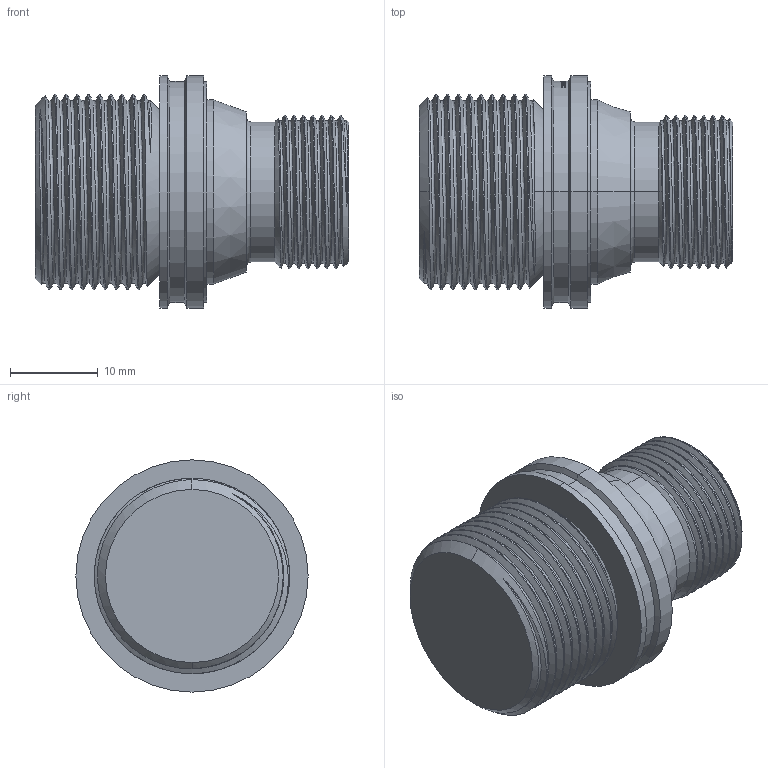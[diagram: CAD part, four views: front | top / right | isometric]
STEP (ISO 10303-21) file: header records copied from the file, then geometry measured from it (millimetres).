
FILE_DESCRIPTION (( 'STEP AP214' ), '1' );
FILE_NAME ('3DFSIP1010000A.STEP', '2024-10-04T17:32:03', ( '' ), ( '' ), 'SwSTEP 2.0', 'SolidWorks 2023', '' );
FILE_SCHEMA (( 'AUTOMOTIVE_DESIGN' ));
Length unit declared in the file: inch
Products named in the file (1): 3DFSIP1010000A
Bounding box: 35.62 x 26.42 x 26.42 mm (x, y, z)
Volume: 11685.1 mm3; surface area: 4251.3 mm2
Topology: 1 solids, 1 shells, 318 faces, 837 edges, 553 vertices
Faces by surface type: bspline 131, plane 96, cylinder 73, cone 16, torus 2
Entity records: 17304 total; most frequent: CARTESIAN_POINT 10710, ORIENTED_EDGE 1674, DIRECTION 876, EDGE_CURVE 837, VERTEX_POINT 553, B_SPLINE_CURVE_WITH_KNOTS 431, AXIS2_PLACEMENT_3D 351, EDGE_LOOP 350
